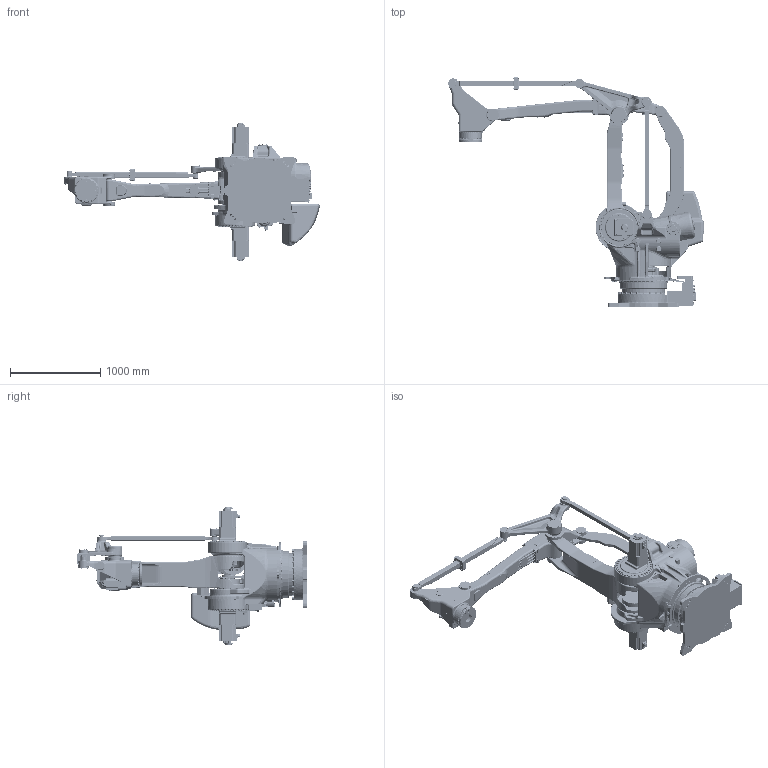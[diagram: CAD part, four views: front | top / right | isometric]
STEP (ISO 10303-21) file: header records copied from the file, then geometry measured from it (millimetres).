
FILE_DESCRIPTION(/* description */ (''),/* implementation_level */ '2;1');
FILE_NAME(/* name */ 'PL800.stp',/* time_stamp */ '2020-11-25T08:55:21+01:00',/* author */ (''),/* organization */ (''),/* preprocessor_version */ 'ST-DEVELOPER v16.7',/* originating_system */ 'SIEMENS PLM Software NX 12.0',/* authorisation */ '');
FILE_SCHEMA (('AUTOMOTIVE_DESIGN { 1 0 10303 214 3 1 1 1 }'));
Products named in the file (14): T_VIEW_1-04LXH800-A00; WRIST_VIEW_1-04LXH800-A00; LINKE_VIEW_1-04LXH800-A00; LINKC_VIEW_1-04LXH800-A00; LINKD_VIEW_1-04LXH800-A00; U_VIEW_1-04LXH800-A00; LINKA_VIEW_1-04LXH800-A00; LINKB_VIEW_1-04LXH800-A00; BALANCER_2_VIEW_1-04LXH800-A00; BALANCER_1_VIEW_1-04LXH800-A00; L_VIEW_1-04LXH800-A00; S_VIEW_1-04LXH800-A00; BASE_VIEW_1-04LXH800-A00; PL800
Assembly tree (13 placements, depth 2):
  PL800
    BASE_VIEW_1-04LXH800-A00
    S_VIEW_1-04LXH800-A00
    L_VIEW_1-04LXH800-A00
    BALANCER_1_VIEW_1-04LXH800-A00
    BALANCER_2_VIEW_1-04LXH800-A00
    LINKB_VIEW_1-04LXH800-A00
    LINKA_VIEW_1-04LXH800-A00
    U_VIEW_1-04LXH800-A00
    LINKD_VIEW_1-04LXH800-A00
    LINKC_VIEW_1-04LXH800-A00
    LINKE_VIEW_1-04LXH800-A00
    WRIST_VIEW_1-04LXH800-A00
    T_VIEW_1-04LXH800-A00
Bounding box: 2835.75 x 2546.42 x 1526.5 mm (x, y, z)
Volume: 522938157.5 mm3; surface area: 16857722.8 mm2
Topology: 13 solids, 23 shells, 11016 faces, 25392 edges, 15280 vertices
Faces by surface type: cylinder 4292, plane 3358, bspline 1473, torus 1181, cone 514, sphere 198
Entity records: 446521 total; most frequent: CARTESIAN_POINT 198983, DIRECTION 52950, ORIENTED_EDGE 50702, EDGE_CURVE 25351, AXIS2_PLACEMENT_3D 21741, VERTEX_POINT 15279, CIRCLE 12159, EDGE_LOOP 12106
